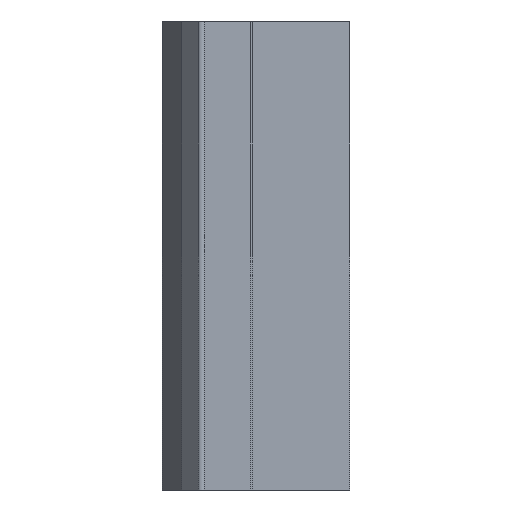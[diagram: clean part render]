
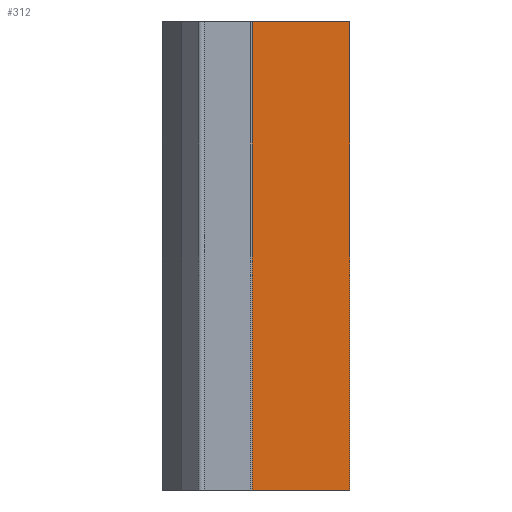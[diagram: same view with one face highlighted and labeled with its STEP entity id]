
A CAD part, front view. The second image highlights one B-rep face of the part: STEP entity #312.
In plain terms, the highlighted planar face has unit normal (0.777, -0.629, 0).
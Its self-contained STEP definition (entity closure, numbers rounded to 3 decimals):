
#10 = EDGE_LOOP ( 'NONE', ( #727, #199, #578, #478 ) ) ;
#43 = CARTESIAN_POINT ( 'NONE',  ( 12.682, -140.292, 120. ) ) ;
#78 = DIRECTION ( 'NONE',  ( 0.629, 0.777, 0. ) ) ;
#96 = VECTOR ( 'NONE', #320, 1000. ) ;
#108 = DIRECTION ( 'NONE',  ( 0.629, 0.777, 0. ) ) ;
#139 = VERTEX_POINT ( 'NONE', #815 ) ;
#199 = ORIENTED_EDGE ( 'NONE', *, *, #525, .F. ) ;
#202 = EDGE_CURVE ( 'NONE', #139, #712, #239, .T. ) ;
#239 = LINE ( 'NONE', #627, #512 ) ;
#246 = CARTESIAN_POINT ( 'NONE',  ( 38., -109.027, 120. ) ) ;
#257 = CARTESIAN_POINT ( 'NONE',  ( 38., -109.027, 0. ) ) ;
#312 = ADVANCED_FACE ( 'NONE', ( #669 ), #575, .F. ) ;
#320 = DIRECTION ( 'NONE',  ( 0., 0., -1. ) ) ;
#385 = DIRECTION ( 'NONE',  ( 0., 0., -1. ) ) ;
#422 = VERTEX_POINT ( 'NONE', #461 ) ;
#461 = CARTESIAN_POINT ( 'NONE',  ( 12.682, -140.292, 0. ) ) ;
#466 = LINE ( 'NONE', #246, #96 ) ;
#472 = VECTOR ( 'NONE', #108, 1000. ) ;
#478 = ORIENTED_EDGE ( 'NONE', *, *, #574, .T. ) ;
#491 = AXIS2_PLACEMENT_3D ( 'NONE', #43, #515, #587 ) ;
#512 = VECTOR ( 'NONE', #78, 1000. ) ;
#515 = DIRECTION ( 'NONE',  ( -0.777, 0.629, 0. ) ) ;
#525 = EDGE_CURVE ( 'NONE', #712, #799, #466, .T. ) ;
#574 = EDGE_CURVE ( 'NONE', #139, #422, #755, .T. ) ;
#575 = PLANE ( 'NONE',  #491 ) ;
#578 = ORIENTED_EDGE ( 'NONE', *, *, #202, .F. ) ;
#587 = DIRECTION ( 'NONE',  ( -0.629, -0.777, 0. ) ) ;
#589 = CARTESIAN_POINT ( 'NONE',  ( 12.682, -140.292, 0. ) ) ;
#611 = LINE ( 'NONE', #589, #472 ) ;
#627 = CARTESIAN_POINT ( 'NONE',  ( 12.682, -140.292, 120. ) ) ;
#664 = CARTESIAN_POINT ( 'NONE',  ( 12.682, -140.292, 120. ) ) ;
#669 = FACE_OUTER_BOUND ( 'NONE', #10, .T. ) ;
#705 = CARTESIAN_POINT ( 'NONE',  ( 38., -109.027, 120. ) ) ;
#712 = VERTEX_POINT ( 'NONE', #705 ) ;
#727 = ORIENTED_EDGE ( 'NONE', *, *, #864, .T. ) ;
#755 = LINE ( 'NONE', #664, #857 ) ;
#799 = VERTEX_POINT ( 'NONE', #257 ) ;
#815 = CARTESIAN_POINT ( 'NONE',  ( 12.682, -140.292, 120. ) ) ;
#857 = VECTOR ( 'NONE', #385, 1000. ) ;
#864 = EDGE_CURVE ( 'NONE', #422, #799, #611, .T. ) ;
